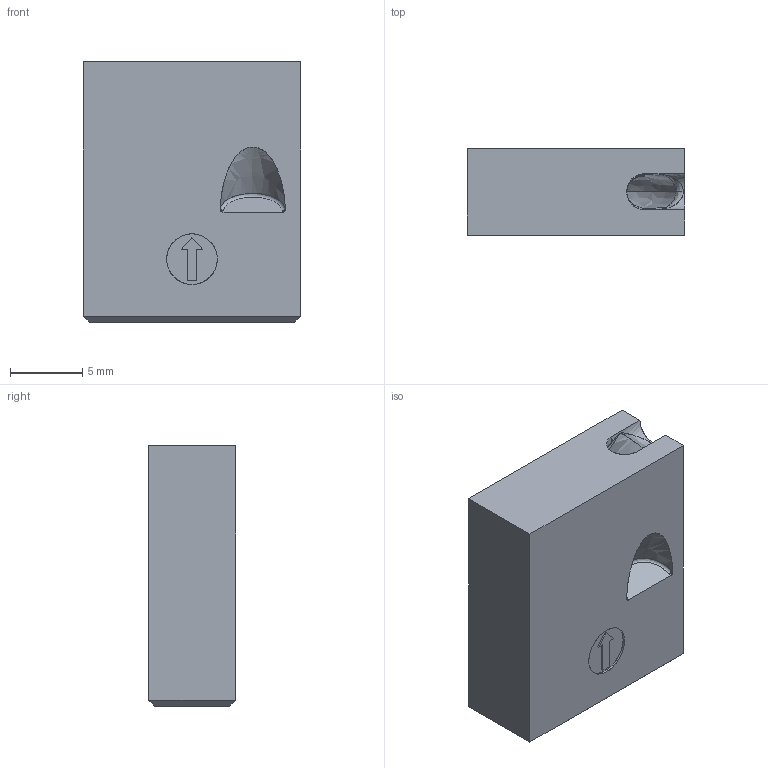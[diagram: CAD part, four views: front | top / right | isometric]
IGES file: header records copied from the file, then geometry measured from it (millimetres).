
Start section: VISI Layer Mapping Iges    VISI  0      0  1      WARNINGS
Global section: file name: G:\Produktkommunikation\Support\CD-Online-Katalog\3D Daten Produkte\E1680_85_90_92_95\E1692_15.igs; native system: VISI 16.0; preprocessor: 2.0; author: PUM; organization: Unknown; date: 20110119.165802; units: millimetre
Bounding box: 15 x 6.02 x 18 mm (x, y, z)
Surface area: 1264.2 mm2 (no closed solid volume)
Topology: 0 solids, 0 shells, 90 faces, 828 edges, 821 vertices
Faces by surface type: bspline 90
